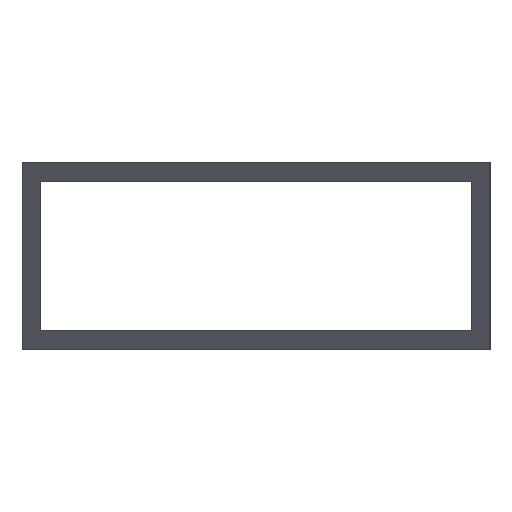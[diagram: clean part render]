
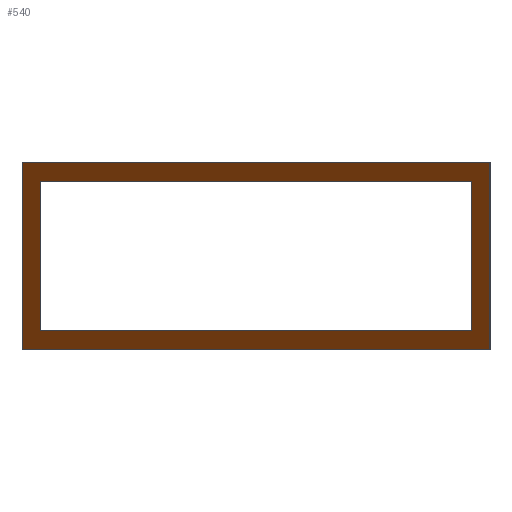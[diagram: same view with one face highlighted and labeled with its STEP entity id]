
A CAD part, left-side view. The second image highlights one B-rep face of the part: STEP entity #540.
In plain terms, the highlighted planar face has unit normal (-0.707, 0, -0.707).
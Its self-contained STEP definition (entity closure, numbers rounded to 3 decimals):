
#278=ORIENTED_EDGE('',*,*,#384,.T.);
#279=ORIENTED_EDGE('',*,*,#375,.T.);
#280=ORIENTED_EDGE('',*,*,#379,.T.);
#281=ORIENTED_EDGE('',*,*,#382,.T.);
#282=ORIENTED_EDGE('',*,*,#386,.T.);
#283=ORIENTED_EDGE('',*,*,#387,.T.);
#284=ORIENTED_EDGE('',*,*,#388,.T.);
#285=ORIENTED_EDGE('',*,*,#389,.T.);
#311=VECTOR('',#425,1.);
#315=VECTOR('',#431,1.);
#318=VECTOR('',#436,1.);
#320=VECTOR('',#440,1.);
#322=VECTOR('',#444,1.);
#323=VECTOR('',#445,1.);
#324=VECTOR('',#446,1.);
#325=VECTOR('',#447,1.);
#335=LINE('',#471,#311);
#339=LINE('',#479,#315);
#342=LINE('',#485,#318);
#344=LINE('',#488,#320);
#346=LINE('',#493,#322);
#347=LINE('',#495,#323);
#348=LINE('',#497,#324);
#349=LINE('',#498,#325);
#359=VERTEX_POINT('',#468);
#360=VERTEX_POINT('',#470);
#363=VERTEX_POINT('',#477);
#365=VERTEX_POINT('',#483);
#366=VERTEX_POINT('',#491);
#367=VERTEX_POINT('',#492);
#368=VERTEX_POINT('',#494);
#369=VERTEX_POINT('',#496);
#375=EDGE_CURVE('',#360,#359,#335,.T.);
#379=EDGE_CURVE('',#359,#363,#339,.T.);
#382=EDGE_CURVE('',#363,#365,#342,.T.);
#384=EDGE_CURVE('',#365,#360,#344,.T.);
#386=EDGE_CURVE('',#366,#367,#346,.T.);
#387=EDGE_CURVE('',#367,#368,#347,.T.);
#388=EDGE_CURVE('',#368,#369,#348,.T.);
#389=EDGE_CURVE('',#369,#366,#349,.T.);
#402=EDGE_LOOP('',(#278,#279,#280,#281));
#403=EDGE_LOOP('',(#282,#283,#284,#285));
#414=FACE_BOUND('',#402,.T.);
#415=FACE_BOUND('',#403,.T.);
#425=DIRECTION('',(-20.,0.,20.));
#431=DIRECTION('',(0.,50.,0.));
#436=DIRECTION('',(20.,0.,-20.));
#440=DIRECTION('',(0.,-50.,0.));
#442=DIRECTION('',(-0.707,0.,-0.707));
#443=DIRECTION('',(0.,0.707,0.));
#444=DIRECTION('',(16.,0.,-16.));
#445=DIRECTION('',(0.,46.,0.));
#446=DIRECTION('',(-16.,0.,16.));
#447=DIRECTION('',(0.,-46.,0.));
#468=CARTESIAN_POINT('',(-1014.536,0.,0.));
#470=CARTESIAN_POINT('',(-994.536,0.,-20.));
#471=CARTESIAN_POINT('',(-994.536,0.,-20.));
#477=CARTESIAN_POINT('',(-1014.536,50.,0.));
#479=CARTESIAN_POINT('',(-1014.536,0.,0.));
#483=CARTESIAN_POINT('',(-994.536,50.,-20.));
#485=CARTESIAN_POINT('',(-1014.536,50.,0.));
#488=CARTESIAN_POINT('',(-994.536,50.,-20.));
#490=CARTESIAN_POINT('',(-994.536,50.,-20.));
#491=CARTESIAN_POINT('',(-1012.536,2.,-2.));
#492=CARTESIAN_POINT('',(-996.536,2.,-18.));
#493=CARTESIAN_POINT('',(-1012.536,2.,-2.));
#494=CARTESIAN_POINT('',(-996.536,48.,-18.));
#495=CARTESIAN_POINT('',(-996.536,2.,-18.));
#496=CARTESIAN_POINT('',(-1012.536,48.,-2.));
#497=CARTESIAN_POINT('',(-996.536,48.,-18.));
#498=CARTESIAN_POINT('',(-1012.536,48.,-2.));
#520=AXIS2_PLACEMENT_3D('',#490,#442,#443);
#530=PLANE('',#520);
#540=ADVANCED_FACE('',(#414,#415),#530,.T.);
